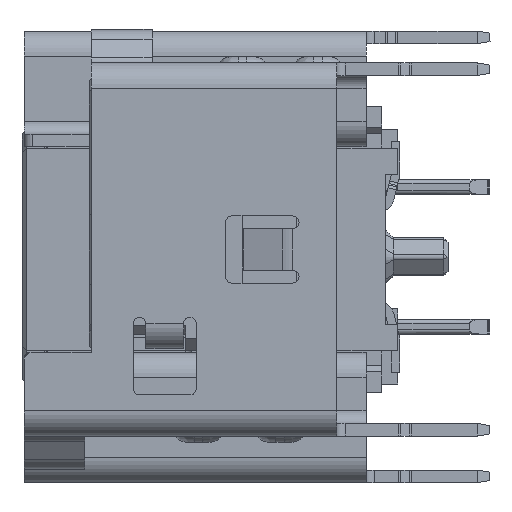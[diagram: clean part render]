
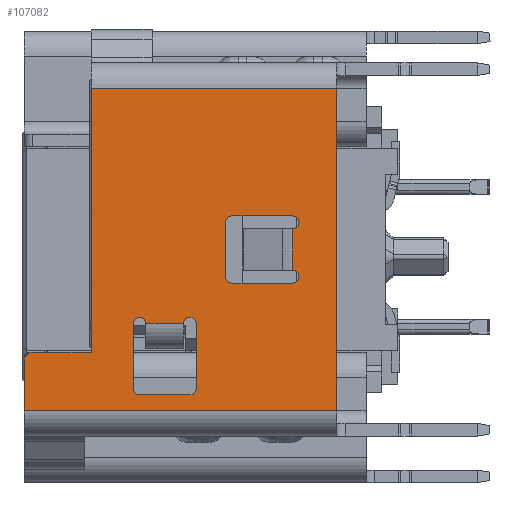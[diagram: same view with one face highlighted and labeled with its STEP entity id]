
A CAD part, left-side view. The second image highlights one B-rep face of the part: STEP entity #107082.
In plain terms, the highlighted planar face has unit normal (-1, 0, 0).
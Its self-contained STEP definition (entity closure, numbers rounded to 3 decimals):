
#1351=DIRECTION('',(0.,1.,0.));
#1352=VECTOR('',#1351,5.85);
#1353=CARTESIAN_POINT('',(0.75,1.45,4.02));
#1354=LINE('',#1353,#1352);
#1355=CARTESIAN_POINT('',(0.75,8.7,-2.47));
#1356=DIRECTION('',(1.,0.,0.));
#1357=DIRECTION('',(0.,1.,0.));
#1358=AXIS2_PLACEMENT_3D('',#1355,#1356,#1357);
#1360=DIRECTION('',(0.,0.,1.));
#1361=VECTOR('',#1360,6.29);
#1362=CARTESIAN_POINT('',(0.75,7.3,-2.27));
#1363=LINE('',#1362,#1361);
#1364=DIRECTION('',(0.,0.,-1.));
#1365=VECTOR('',#1364,7.69);
#1366=CARTESIAN_POINT('',(0.75,1.45,4.02));
#1367=LINE('',#1366,#1365);
#1368=CARTESIAN_POINT('',(0.75,3.95,-0.475));
#1369=DIRECTION('',(-1.,0.,0.));
#1370=DIRECTION('',(0.,1.,0.));
#1371=AXIS2_PLACEMENT_3D('',#1368,#1369,#1370);
#1373=CARTESIAN_POINT('',(0.75,2.5,-0.475));
#1374=DIRECTION('',(-1.,0.,0.));
#1375=DIRECTION('',(0.,0.,-1.));
#1376=AXIS2_PLACEMENT_3D('',#1373,#1374,#1375);
#1378=CARTESIAN_POINT('',(0.75,2.5,0.825));
#1379=DIRECTION('',(-1.,0.,0.));
#1380=DIRECTION('',(0.,0.,-1.));
#1381=AXIS2_PLACEMENT_3D('',#1378,#1379,#1380);
#1383=CARTESIAN_POINT('',(0.75,3.95,0.825));
#1384=DIRECTION('',(-1.,0.,0.));
#1385=DIRECTION('',(0.,0.,1.));
#1386=AXIS2_PLACEMENT_3D('',#1383,#1384,#1385);
#1388=CARTESIAN_POINT('',(0.75,4.95,-3.14));
#1389=DIRECTION('',(-1.,0.,0.));
#1390=DIRECTION('',(0.,0.,-1.));
#1391=AXIS2_PLACEMENT_3D('',#1388,#1389,#1390);
#1393=CARTESIAN_POINT('',(0.75,4.95,-1.59));
#1394=DIRECTION('',(-1.,0.,0.));
#1395=DIRECTION('',(0.,-1.,0.));
#1396=AXIS2_PLACEMENT_3D('',#1393,#1394,#1395);
#1398=CARTESIAN_POINT('',(0.75,6.15,-1.59));
#1399=DIRECTION('',(-1.,0.,0.));
#1400=DIRECTION('',(0.,-1.,0.));
#1401=AXIS2_PLACEMENT_3D('',#1398,#1399,#1400);
#1403=CARTESIAN_POINT('',(0.75,6.15,-3.14));
#1404=DIRECTION('',(-1.,0.,0.));
#1405=DIRECTION('',(0.,1.,0.));
#1406=AXIS2_PLACEMENT_3D('',#1403,#1404,#1405);
#1551=DIRECTION('',(0.,0.,-1.));
#1552=VECTOR('',#1551,1.2);
#1553=CARTESIAN_POINT('',(0.75,8.9,-2.47));
#1554=LINE('',#1553,#1552);
#7109=DIRECTION('',(0.,-1.,0.));
#7110=VECTOR('',#7109,0.9);
#7111=CARTESIAN_POINT('',(0.75,6.,-1.59));
#7112=LINE('',#7111,#7110);
#13317=DIRECTION('',(0.,0.,1.));
#13318=VECTOR('',#13317,1.55);
#13319=CARTESIAN_POINT('',(0.75,6.3,-3.14));
#13320=LINE('',#13319,#13318);
#13329=DIRECTION('',(0.,1.,0.));
#13330=VECTOR('',#13329,1.2);
#13331=CARTESIAN_POINT('',(0.75,4.95,-3.29));
#13332=LINE('',#13331,#13330);
#13341=DIRECTION('',(0.,0.,-1.));
#13342=VECTOR('',#13341,1.55);
#13343=CARTESIAN_POINT('',(0.75,4.8,-1.59));
#13344=LINE('',#13343,#13342);
#14890=DIRECTION('',(0.,1.,0.));
#14891=VECTOR('',#14890,1.4);
#14892=CARTESIAN_POINT('',(0.75,7.3,-2.27));
#14893=LINE('',#14892,#14891);
#54119=DIRECTION('',(0.,-1.,0.));
#54120=VECTOR('',#54119,7.45);
#54121=CARTESIAN_POINT('',(0.75,8.9,-3.67));
#54122=LINE('',#54121,#54120);
#54383=DIRECTION('',(0.,0.,1.));
#54384=VECTOR('',#54383,1.3);
#54385=CARTESIAN_POINT('',(0.75,4.1,-0.475));
#54386=LINE('',#54385,#54384);
#54395=DIRECTION('',(0.,1.,0.));
#54396=VECTOR('',#54395,1.45);
#54397=CARTESIAN_POINT('',(0.75,2.5,-0.625));
#54398=LINE('',#54397,#54396);
#54447=DIRECTION('',(0.,0.,-1.));
#54448=VECTOR('',#54447,1.);
#54449=CARTESIAN_POINT('',(0.75,2.5,0.675));
#54450=LINE('',#54449,#54448);
#54483=DIRECTION('',(0.,-1.,0.));
#54484=VECTOR('',#54483,1.45);
#54485=CARTESIAN_POINT('',(0.75,3.95,0.975));
#54486=LINE('',#54485,#54484);
#87660=CARTESIAN_POINT('',(0.75,8.9,-3.67));
#87661=VERTEX_POINT('',#87660);
#87663=CARTESIAN_POINT('',(0.75,8.9,-2.47));
#87665=VERTEX_POINT('',#87663);
#87668=CARTESIAN_POINT('',(0.75,8.7,-2.27));
#87669=VERTEX_POINT('',#87668);
#87716=CARTESIAN_POINT('',(0.75,7.3,-2.27));
#87717=VERTEX_POINT('',#87716);
#87720=CARTESIAN_POINT('',(0.75,7.3,4.02));
#87721=VERTEX_POINT('',#87720);
#87732=CARTESIAN_POINT('',(0.75,1.45,-3.67));
#87733=VERTEX_POINT('',#87732);
#87734=CARTESIAN_POINT('',(0.75,1.45,4.02));
#87735=VERTEX_POINT('',#87734);
#88627=CARTESIAN_POINT('',(0.75,4.1,-0.475));
#88628=CARTESIAN_POINT('',(0.75,4.1,0.825));
#88629=VERTEX_POINT('',#88627);
#88630=VERTEX_POINT('',#88628);
#88631=CARTESIAN_POINT('',(0.75,3.95,-0.625));
#88632=VERTEX_POINT('',#88631);
#88633=CARTESIAN_POINT('',(0.75,2.5,-0.625));
#88634=VERTEX_POINT('',#88633);
#88635=CARTESIAN_POINT('',(0.75,2.5,-0.325));
#88636=VERTEX_POINT('',#88635);
#88637=CARTESIAN_POINT('',(0.75,2.5,0.675));
#88638=VERTEX_POINT('',#88637);
#88639=CARTESIAN_POINT('',(0.75,2.5,0.975));
#88640=VERTEX_POINT('',#88639);
#88641=CARTESIAN_POINT('',(0.75,3.95,0.975));
#88642=VERTEX_POINT('',#88641);
#88643=CARTESIAN_POINT('',(0.75,4.95,-3.29));
#88644=CARTESIAN_POINT('',(0.75,6.15,-3.29));
#88645=VERTEX_POINT('',#88643);
#88646=VERTEX_POINT('',#88644);
#88647=CARTESIAN_POINT('',(0.75,4.8,-3.14));
#88648=VERTEX_POINT('',#88647);
#88649=CARTESIAN_POINT('',(0.75,4.8,-1.59));
#88650=VERTEX_POINT('',#88649);
#88651=CARTESIAN_POINT('',(0.75,5.1,-1.59));
#88652=VERTEX_POINT('',#88651);
#88653=CARTESIAN_POINT('',(0.75,6.,-1.59));
#88654=VERTEX_POINT('',#88653);
#88655=CARTESIAN_POINT('',(0.75,6.3,-1.59));
#88656=VERTEX_POINT('',#88655);
#88657=CARTESIAN_POINT('',(0.75,6.3,-3.14));
#88658=VERTEX_POINT('',#88657);
#107027=CARTESIAN_POINT('',(0.75,0.75,-9.408));
#107028=DIRECTION('',(-1.,0.,0.));
#107029=DIRECTION('',(0.,0.,1.));
#107030=AXIS2_PLACEMENT_3D('',#107027,#107028,#107029);
#107031=PLANE('',#107030);
#107033=ORIENTED_EDGE('',*,*,#107032,.T.);
#107035=ORIENTED_EDGE('',*,*,#107034,.F.);
#107037=ORIENTED_EDGE('',*,*,#107036,.T.);
#107038=ORIENTED_EDGE('',*,*,#107020,.F.);
#107039=ORIENTED_EDGE('',*,*,#106342,.T.);
#107041=ORIENTED_EDGE('',*,*,#107040,.F.);
#107043=ORIENTED_EDGE('',*,*,#107042,.F.);
#107044=EDGE_LOOP('',(#107033,#107035,#107037,#107038,#107039,#107041,#107043));
#107045=FACE_OUTER_BOUND('',#107044,.F.);
#107047=ORIENTED_EDGE('',*,*,#107046,.F.);
#107049=ORIENTED_EDGE('',*,*,#107048,.T.);
#107051=ORIENTED_EDGE('',*,*,#107050,.F.);
#107053=ORIENTED_EDGE('',*,*,#107052,.T.);
#107055=ORIENTED_EDGE('',*,*,#107054,.F.);
#107057=ORIENTED_EDGE('',*,*,#107056,.T.);
#107059=ORIENTED_EDGE('',*,*,#107058,.F.);
#107061=ORIENTED_EDGE('',*,*,#107060,.T.);
#107062=EDGE_LOOP('',(#107047,#107049,#107051,#107053,#107055,#107057,#107059,
#107061));
#107063=FACE_BOUND('',#107062,.F.);
#107065=ORIENTED_EDGE('',*,*,#107064,.F.);
#107067=ORIENTED_EDGE('',*,*,#107066,.T.);
#107069=ORIENTED_EDGE('',*,*,#107068,.F.);
#107071=ORIENTED_EDGE('',*,*,#107070,.T.);
#107073=ORIENTED_EDGE('',*,*,#107072,.F.);
#107075=ORIENTED_EDGE('',*,*,#107074,.T.);
#107077=ORIENTED_EDGE('',*,*,#107076,.F.);
#107079=ORIENTED_EDGE('',*,*,#107078,.T.);
#107080=EDGE_LOOP('',(#107065,#107067,#107069,#107071,#107073,#107075,#107077,
#107079));
#107081=FACE_BOUND('',#107080,.F.);
#107082=ADVANCED_FACE('',(#107045,#107063,#107081),#107031,.T.);
#1359=CIRCLE('',#1358,0.2);
#1372=CIRCLE('',#1371,0.15);
#1377=CIRCLE('',#1376,0.15);
#1382=CIRCLE('',#1381,0.15);
#1387=CIRCLE('',#1386,0.15);
#1392=CIRCLE('',#1391,0.15);
#1397=CIRCLE('',#1396,0.15);
#1402=CIRCLE('',#1401,0.15);
#1407=CIRCLE('',#1406,0.15);
#106342=EDGE_CURVE('',#87735,#87733,#1367,.T.);
#107020=EDGE_CURVE('',#87735,#87721,#1354,.T.);
#107032=EDGE_CURVE('',#87665,#87669,#1359,.T.);
#107034=EDGE_CURVE('',#87717,#87669,#14893,.T.);
#107036=EDGE_CURVE('',#87717,#87721,#1363,.T.);
#107040=EDGE_CURVE('',#87661,#87733,#54122,.T.);
#107042=EDGE_CURVE('',#87665,#87661,#1554,.T.);
#107046=EDGE_CURVE('',#88629,#88630,#54386,.T.);
#107048=EDGE_CURVE('',#88629,#88632,#1372,.T.);
#107050=EDGE_CURVE('',#88634,#88632,#54398,.T.);
#107052=EDGE_CURVE('',#88634,#88636,#1377,.T.);
#107054=EDGE_CURVE('',#88638,#88636,#54450,.T.);
#107056=EDGE_CURVE('',#88638,#88640,#1382,.T.);
#107058=EDGE_CURVE('',#88642,#88640,#54486,.T.);
#107060=EDGE_CURVE('',#88642,#88630,#1387,.T.);
#107064=EDGE_CURVE('',#88645,#88646,#13332,.T.);
#107066=EDGE_CURVE('',#88645,#88648,#1392,.T.);
#107068=EDGE_CURVE('',#88650,#88648,#13344,.T.);
#107070=EDGE_CURVE('',#88650,#88652,#1397,.T.);
#107072=EDGE_CURVE('',#88654,#88652,#7112,.T.);
#107074=EDGE_CURVE('',#88654,#88656,#1402,.T.);
#107076=EDGE_CURVE('',#88658,#88656,#13320,.T.);
#107078=EDGE_CURVE('',#88658,#88646,#1407,.T.);
